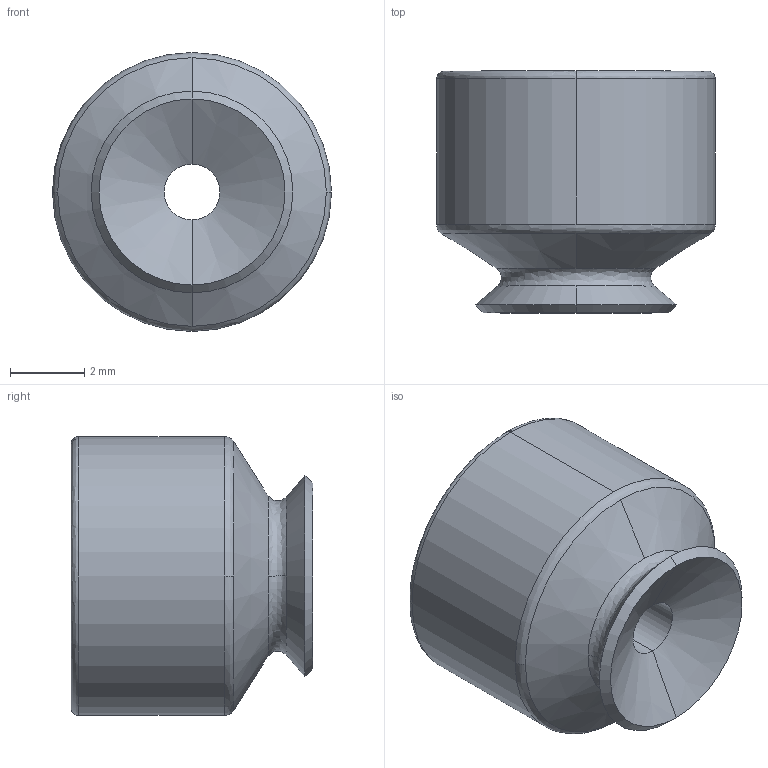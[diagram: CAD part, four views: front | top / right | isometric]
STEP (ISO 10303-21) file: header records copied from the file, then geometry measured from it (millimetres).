
FILE_DESCRIPTION (( 'STEP AP214' ), '1' );
FILE_NAME ('PFG-5.STEP', '2023-03-07T05:47:08', ( 'Windows User' ), ( 'P R C' ), 'SwSTEP 2.0', 'SolidWorks 2019', '' );
FILE_SCHEMA (( 'AUTOMOTIVE_DESIGN' ));
Length unit declared in the file: millimetre
Products named in the file (1): PFG-5
Bounding box: 7.5 x 6.5 x 7.5 mm (x, y, z)
Volume: 145 mm3; surface area: 317.4 mm2
Topology: 1 solids, 1 shells, 31 faces, 74 edges, 46 vertices
Faces by surface type: bspline 12, cone 8, cylinder 8, plane 3
Entity records: 1548 total; most frequent: CARTESIAN_POINT 858, ORIENTED_EDGE 148, DIRECTION 132, EDGE_CURVE 74, AXIS2_PLACEMENT_3D 58, VERTEX_POINT 46, CIRCLE 38, EDGE_LOOP 34
